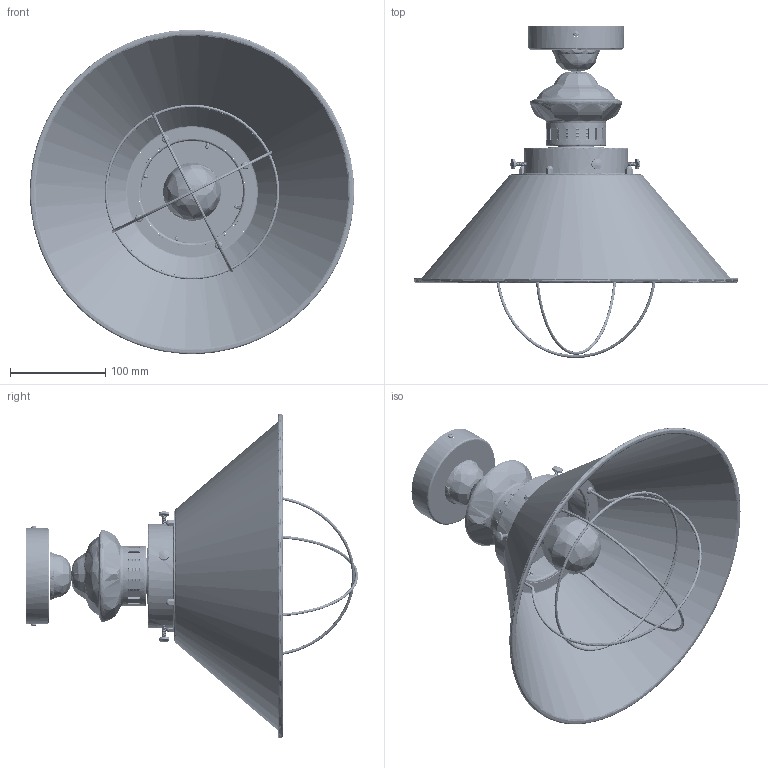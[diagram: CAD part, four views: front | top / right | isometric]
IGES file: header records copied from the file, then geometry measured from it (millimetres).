
Start section: SolidWorks IGES file using NURBS representation for surfaces
Global section: file name: Z:\Modele 3D_WWW\_KOLEKCJE_WWW\GARRET\9247\GARRET-I-9247.IGS; native system: SolidWorks 2021; preprocessor: SolidWorks 2021; author: gabriela.tworek; date: 210916.094400; units: millimetre
Bounding box: 339.64 x 348.01 x 339.77 mm (x, y, z)
Surface area: 448754 mm2 (no closed solid volume)
Topology: 0 solids, 0 shells, 2595 faces, 38693 edges, 38333 vertices
Faces by surface type: bspline 2595
